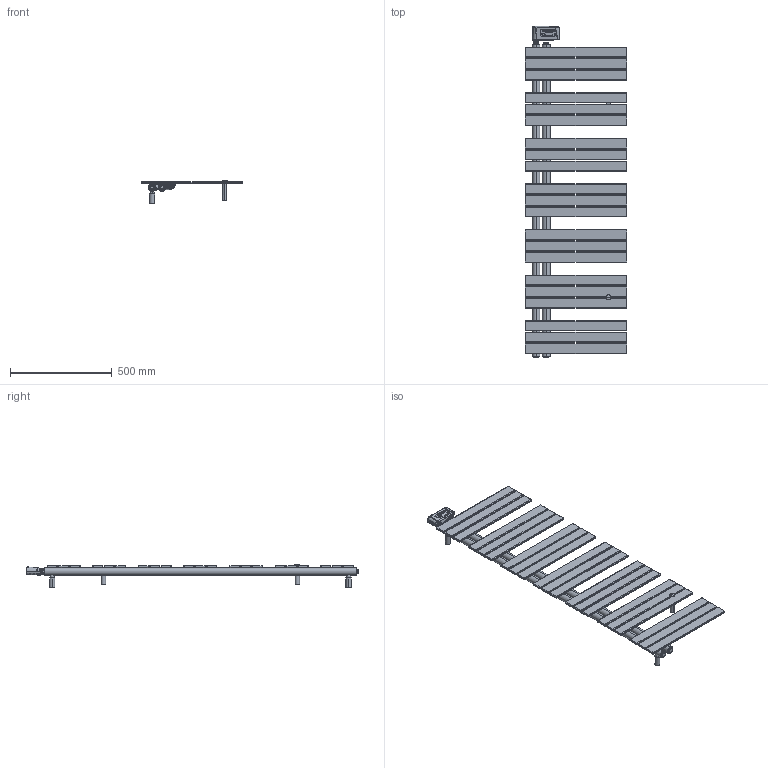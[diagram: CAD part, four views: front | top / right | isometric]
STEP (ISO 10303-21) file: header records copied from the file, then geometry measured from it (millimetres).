
FILE_DESCRIPTION((''),'2;1');
FILE_NAME('3581726100194_3D_SITO_ASM','2023-10-16T15:35:51',('PC132'),(''),'CREO PARAMETRIC BY PTC INC, 2023092','CREO PARAMETRIC BY PTC INC, 2023092','');
FILE_SCHEMA(('AUTOMOTIVE_DESIGN { 1 0 10303 214 1 1 1 1 }'));
Products named in the file (6): 2551720500003_3D_SITO; 1010181240001; 1117000001006; BOTT_GIUNTO_KELLY_RAD50X10; 1035270000042; 3581726100194_3D_SITO_ASM
Assembly tree (7 placements, depth 2):
  3581726100194_3D_SITO_ASM
    2551720500003_3D_SITO
    1010181240001  x3
    1117000001006
    BOTT_GIUNTO_KELLY_RAD50X10
    1035270000042
Bounding box: 500 x 1630.49 x 115.5 mm (x, y, z)
Volume: 8899943.4 mm3; surface area: 1741780.7 mm2
Topology: 32 solids, 36 shells, 1705 faces, 4228 edges, 2604 vertices
Faces by surface type: plane 626, cylinder 578, bspline 345, torus 69, cone 57, extrusion 18, sphere 12
Entity records: 122591 total; most frequent: CARTESIAN_POINT 68556, ORIENTED_EDGE 8025, DIRECTION 7198, PRESENTATION_STYLE_ASSIGNMENT 4105, EDGE_CURVE 4033, STYLED_ITEM 3977, CURVE_STYLE 3947, AXIS2_PLACEMENT_3D 2614
